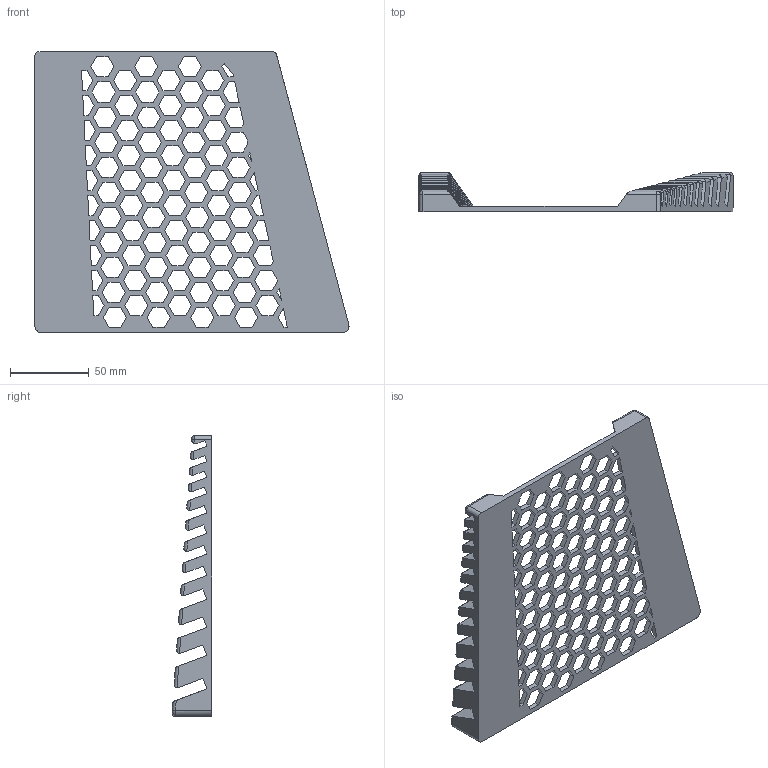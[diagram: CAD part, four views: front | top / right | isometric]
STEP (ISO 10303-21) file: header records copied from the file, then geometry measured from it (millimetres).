
FILE_DESCRIPTION (( 'STEP AP203' ), '1' );
FILE_NAME ('wrench organizer2.STEP', '2025-11-10T15:35:56', ( '' ), ( '' ), 'SwSTEP 2.0', 'SolidWorks 2024', '' );
FILE_SCHEMA (( 'CONFIG_CONTROL_DESIGN' ));
Length unit declared in the file: inch
Products named in the file (1): wrench organizer2
Bounding box: 198.85 x 25.25 x 177.8 mm (x, y, z)
Volume: 151892.8 mm3; surface area: 76831.9 mm2
Topology: 1 solids, 1 shells, 756 faces, 2254 edges, 1500 vertices
Faces by surface type: plane 644, cylinder 108, bspline 4
Entity records: 25409 total; most frequent: CARTESIAN_POINT 5215, ORIENTED_EDGE 4508, DIRECTION 3588, EDGE_CURVE 2254, VECTOR 2034, LINE 2034, VERTEX_POINT 1500, EDGE_LOOP 942
